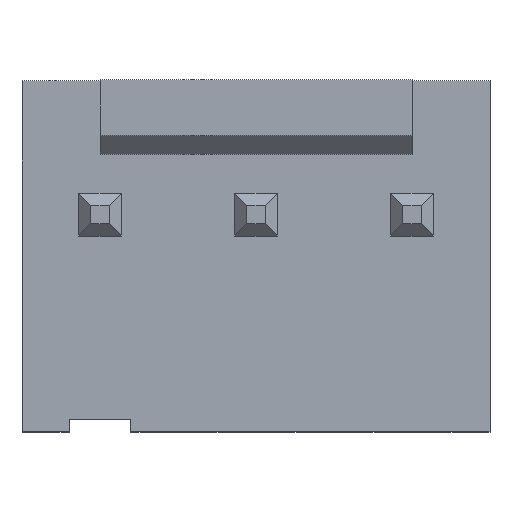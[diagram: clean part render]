
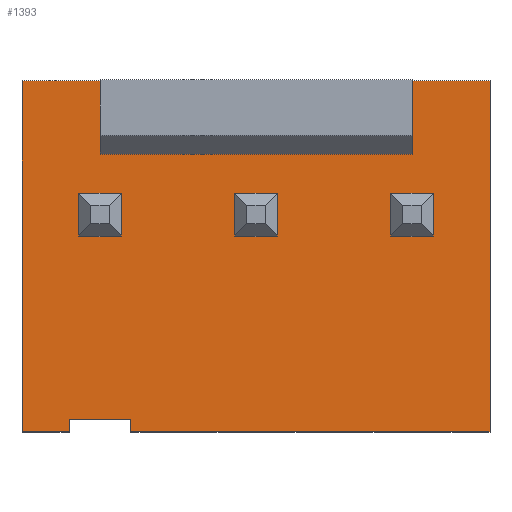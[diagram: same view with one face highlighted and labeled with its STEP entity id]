
A CAD part, top view. The second image highlights one B-rep face of the part: STEP entity #1393.
In plain terms, the highlighted planar face has unit normal (0, 0, 1).
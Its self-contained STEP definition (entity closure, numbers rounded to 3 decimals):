
#94 = VERTEX_POINT('',#95);
#95 = CARTESIAN_POINT('',(1.27,-0.9,3.3));
#101 = EDGE_CURVE('',#94,#102,#104,.T.);
#102 = VERTEX_POINT('',#103);
#103 = CARTESIAN_POINT('',(1.27,0.,3.3));
#104 = LINE('',#105,#106);
#105 = CARTESIAN_POINT('',(1.27,-1.9,3.3));
#106 = VECTOR('',#107,1.);
#107 = DIRECTION('',(0.,1.,0.));
#181 = VERTEX_POINT('',#182);
#182 = CARTESIAN_POINT('',(6.35,-0.9,3.3));
#188 = EDGE_CURVE('',#181,#189,#191,.T.);
#189 = VERTEX_POINT('',#190);
#190 = CARTESIAN_POINT('',(6.35,0.,3.3));
#191 = LINE('',#192,#193);
#192 = CARTESIAN_POINT('',(6.35,-8.,3.3));
#193 = VECTOR('',#194,1.);
#194 = DIRECTION('',(0.,1.,0.));
#237 = VERTEX_POINT('',#238);
#238 = CARTESIAN_POINT('',(0.,0.,3.3));
#349 = VERTEX_POINT('',#350);
#350 = CARTESIAN_POINT('',(7.62,0.,3.3));
#356 = EDGE_CURVE('',#349,#189,#357,.T.);
#357 = LINE('',#358,#359);
#358 = CARTESIAN_POINT('',(3.175,0.,3.3));
#359 = VECTOR('',#360,1.);
#360 = DIRECTION('',(-1.,0.,0.));
#365 = EDGE_CURVE('',#102,#237,#366,.T.);
#366 = LINE('',#367,#368);
#367 = CARTESIAN_POINT('',(0.635,0.,3.3));
#368 = VECTOR('',#369,1.);
#369 = DIRECTION('',(-1.,0.,0.));
#387 = EDGE_CURVE('',#94,#181,#388,.T.);
#388 = LINE('',#389,#390);
#389 = CARTESIAN_POINT('',(0.,-0.9,3.3));
#390 = VECTOR('',#391,1.);
#391 = DIRECTION('',(1.,0.,0.));
#448 = EDGE_CURVE('',#237,#449,#451,.T.);
#449 = VERTEX_POINT('',#450);
#450 = CARTESIAN_POINT('',(0.,-5.715,3.3));
#451 = LINE('',#452,#453);
#452 = CARTESIAN_POINT('',(0.,-0.9,3.3));
#453 = VECTOR('',#454,1.);
#454 = DIRECTION('',(0.,-1.,0.));
#487 = EDGE_CURVE('',#349,#488,#490,.T.);
#488 = VERTEX_POINT('',#489);
#489 = CARTESIAN_POINT('',(7.62,-5.715,3.3));
#490 = LINE('',#491,#492);
#491 = CARTESIAN_POINT('',(7.62,-5.406,3.3));
#492 = VECTOR('',#493,1.);
#493 = DIRECTION('',(0.,-1.,0.));
#949 = EDGE_CURVE('',#449,#950,#952,.T.);
#950 = VERTEX_POINT('',#951);
#951 = CARTESIAN_POINT('',(0.77,-5.715,3.3));
#952 = LINE('',#953,#954);
#953 = CARTESIAN_POINT('',(0.,-5.715,3.3));
#954 = VECTOR('',#955,1.);
#955 = DIRECTION('',(1.,0.,0.));
#975 = VERTEX_POINT('',#976);
#976 = CARTESIAN_POINT('',(1.77,-5.715,3.3));
#982 = EDGE_CURVE('',#975,#488,#983,.T.);
#983 = LINE('',#984,#985);
#984 = CARTESIAN_POINT('',(0.,-5.715,3.3));
#985 = VECTOR('',#986,1.);
#986 = DIRECTION('',(1.,0.,0.));
#1203 = VERTEX_POINT('',#1204);
#1204 = CARTESIAN_POINT('',(1.77,-5.51,3.3));
#1210 = EDGE_CURVE('',#1203,#975,#1211,.T.);
#1211 = LINE('',#1212,#1213);
#1212 = CARTESIAN_POINT('',(1.77,-3.355,3.3));
#1213 = VECTOR('',#1214,1.);
#1214 = DIRECTION('',(0.,-1.,0.));
#1227 = VERTEX_POINT('',#1228);
#1228 = CARTESIAN_POINT('',(0.77,-5.51,3.3));
#1234 = EDGE_CURVE('',#1227,#1203,#1235,.T.);
#1235 = LINE('',#1236,#1237);
#1236 = CARTESIAN_POINT('',(0.385,-5.51,3.3));
#1237 = VECTOR('',#1238,1.);
#1238 = DIRECTION('',(1.,0.,0.));
#1251 = EDGE_CURVE('',#1227,#950,#1252,.T.);
#1252 = LINE('',#1253,#1254);
#1253 = CARTESIAN_POINT('',(0.77,-3.355,3.3));
#1254 = VECTOR('',#1255,1.);
#1255 = DIRECTION('',(0.,-1.,0.));
#1393 = ADVANCED_FACE('',(#1394),#1408,.T.);
#1394 = FACE_BOUND('',#1395,.T.);
#1395 = EDGE_LOOP('',(#1396,#1397,#1398,#1399,#1400,#1401,#1402,#1403,
    #1404,#1405,#1406,#1407));
#1396 = ORIENTED_EDGE('',*,*,#448,.T.);
#1397 = ORIENTED_EDGE('',*,*,#949,.T.);
#1398 = ORIENTED_EDGE('',*,*,#1251,.F.);
#1399 = ORIENTED_EDGE('',*,*,#1234,.T.);
#1400 = ORIENTED_EDGE('',*,*,#1210,.T.);
#1401 = ORIENTED_EDGE('',*,*,#982,.T.);
#1402 = ORIENTED_EDGE('',*,*,#487,.F.);
#1403 = ORIENTED_EDGE('',*,*,#356,.T.);
#1404 = ORIENTED_EDGE('',*,*,#188,.F.);
#1405 = ORIENTED_EDGE('',*,*,#387,.F.);
#1406 = ORIENTED_EDGE('',*,*,#101,.T.);
#1407 = ORIENTED_EDGE('',*,*,#365,.T.);
#1408 = PLANE('',#1409);
#1409 = AXIS2_PLACEMENT_3D('',#1410,#1411,#1412);
#1410 = CARTESIAN_POINT('',(3.774,-2.898,3.3));
#1411 = DIRECTION('',(0.,0.,1.));
#1412 = DIRECTION('',(0.,1.,0.));
